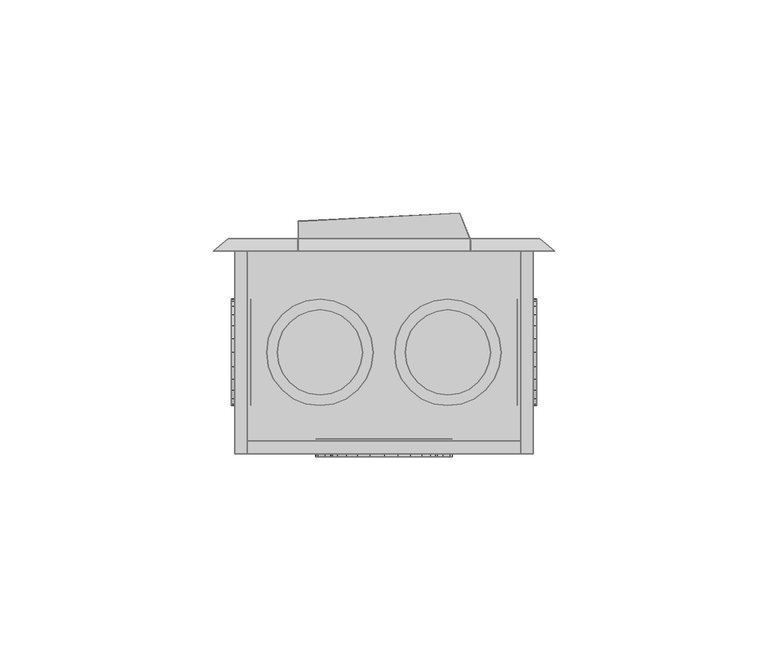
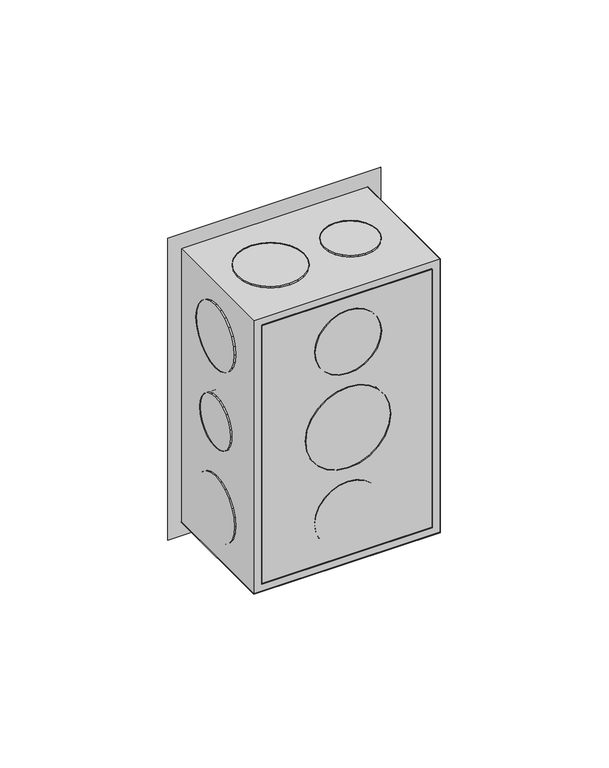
"""IFC4 building model written with IfcOpenShell, lengths in millimetres: proxy geometry,  210179 :  210179."""

from ifc_helpers import new_model, si_unit, origin, place, context, project, spatial, triangles, source, transform, mapped, element, save


def generic_models_ee511224(model_context):
    return source(origin(), model_context, "Body", "Tessellation", [
        triangles([(11176.9003326, 8695.5000504, 1254.3000378), (11179.9001495, 8695.5000504, 1148.7000154), (11176.9003326, 8695.5000504, 1145.6999805), (11179.9001495, 8695.5000504, 1251.2999302), (11246.8995483, 8695.5000504, 1254.3000378), (11243.8997314, 8695.5000504, 1251.2999302), (11246.8995483, 8695.5000504, 1145.6999805), (11243.8997314, 8695.5000504, 1148.7000154), (11179.9001495, 8648.0000427, 1251.2999302), (11179.9001495, 8648.0000427, 1148.7000154), (11246.8995483, 8648.0000427, 1254.3000378), (11246.8995483, 8648.0000427, 1145.6999805), (11243.8997314, 8648.0000427, 1251.2999302), (11176.9003326, 8648.0000427, 1145.6999805), (11243.8997314, 8648.0000427, 1148.7000154), (11176.9003326, 8648.0000427, 1254.3000378), (11179.9001495, 8650.9998596, 1251.2999302), (11243.8997314, 8650.9998596, 1148.7000154), (11179.9001495, 8650.9998596, 1148.7000154), (11243.8997314, 8650.9998596, 1251.2999302), (11198.0002075, 8651.4998291, 1191.9999887), (11203.8998474, 8651.4998291, 1186.0999855), (11200.6000488, 8651.4998291, 1188.6999722), (11196.4003052, 8651.4998291, 1195.8999687), (11207.6996155, 8651.4998291, 1184.5000105), (11195.9003357, 8651.4998291, 1200.0000092), (11211.9005219, 8651.4998291, 1183.9999683), (11196.4003052, 8651.4998291, 1204.0999769), (11216.0002716, 8651.4998291, 1184.5000105), (11198.0002075, 8651.4998291, 1208.0000296), (11219.9000336, 8651.4998291, 1186.0999855), (11200.6000488, 8651.4998291, 1211.2999735), (11223.1998322, 8651.4998291, 1188.6999722), (11203.8998474, 8651.4998291, 1213.9000328), (11225.6996796, 8651.4998291, 1191.9999887), (11207.6996155, 8651.4998291, 1215.5000078), (11227.2995819, 8651.4998291, 1195.8999687), (11211.9005219, 8651.4998291, 1215.9999773), (11227.8995453, 8651.4998291, 1200.0000092), (11216.0002716, 8651.4998291, 1215.5000078), (11227.2995819, 8651.4998291, 1204.0999769), (11219.9000336, 8651.4998291, 1213.9000328), (11225.6996796, 8651.4998291, 1208.0000296), (11223.1998322, 8651.4998291, 1211.2999735), (11216.0002716, 8647.3000854, 1184.5000105), (11211.9005219, 8647.3000854, 1183.9999683), (11207.6996155, 8647.3000854, 1184.5000105), (11203.8998474, 8647.3000854, 1186.0999855), (11200.6000488, 8647.3000854, 1188.6999722), (11198.0002075, 8647.3000854, 1191.9999887), (11196.4003052, 8647.3000854, 1195.8999687), (11195.9003357, 8647.3000854, 1200.0000092), (11196.4003052, 8647.3000854, 1204.0999769), (11198.0002075, 8647.3000854, 1208.0000296), (11200.6000488, 8647.3000854, 1211.2999735), (11203.8998474, 8647.3000854, 1213.9000328), (11207.6996155, 8647.3000854, 1215.5000078), (11211.9005219, 8647.3000854, 1215.9999773), (11216.0002716, 8647.3000854, 1215.5000078), (11219.9000336, 8647.3000854, 1213.9000328), (11223.1998322, 8647.3000854, 1211.2999735), (11225.6996796, 8647.3000854, 1208.0000296), (11227.2995819, 8647.3000854, 1204.0999769), (11227.8995453, 8647.3000854, 1200.0000092), (11227.2995819, 8647.3000854, 1195.8999687), (11225.6996796, 8647.3000854, 1191.9999887), (11223.1998322, 8647.3000854, 1188.6999722), (11219.9000336, 8647.3000854, 1186.0999855), (11201.0000244, 8651.4998291, 1227.8000565), (11205.5997437, 8651.4998291, 1223.2000465), (11202.9999023, 8651.4998291, 1225.2000698), (11199.8000977, 8651.4998291, 1230.8000187), (11208.5995605, 8651.4998291, 1221.8999805), (11199.4001221, 8651.4998291, 1233.9999687), (11211.9005219, 8651.4998291, 1221.500005), (11199.8000977, 8651.4998291, 1237.2000641), (11215.1003265, 8651.4998291, 1221.8999805), (11201.0000244, 8651.4998291, 1240.3000202), (11218.1001434, 8651.4998291, 1223.2000465), (11202.9999023, 8651.4998291, 1242.800013), (11220.6999847, 8651.4998291, 1225.2000698), (11222.6998627, 8651.4998291, 1227.8000565), (11205.5997437, 8651.4998291, 1244.8000362), (11208.5995605, 8651.4998291, 1246.0999569), (11223.8997894, 8651.4998291, 1230.8000187), (11211.9005219, 8651.4998291, 1246.4999325), (11224.3997589, 8651.4998291, 1233.9999687), (11215.1003265, 8651.4998291, 1246.0999569), (11223.8997894, 8651.4998291, 1237.2000641), (11222.6998627, 8651.4998291, 1240.3000202), (11218.1001434, 8651.4998291, 1244.8000362), (11220.6999847, 8651.4998291, 1242.800013), (11223.8997894, 8647.3000854, 1230.8000187), (11222.6998627, 8647.3000854, 1227.8000565), (11220.6999847, 8647.3000854, 1225.2000698), (11218.1001434, 8647.3000854, 1223.2000465), (11215.1003265, 8647.3000854, 1221.8999805), (11211.9005219, 8647.3000854, 1221.500005), (11208.5995605, 8647.3000854, 1221.8999805), (11205.5997437, 8647.3000854, 1223.2000465), (11202.9999023, 8647.3000854, 1225.2000698), (11201.0000244, 8647.3000854, 1227.8000565), (11199.8000977, 8647.3000854, 1230.8000187), (11199.4001221, 8647.3000854, 1233.9999687), (11199.8000977, 8647.3000854, 1237.2000641), (11201.0000244, 8647.3000854, 1240.3000202), (11202.9999023, 8647.3000854, 1242.800013), (11205.5997437, 8647.3000854, 1244.8000362), (11208.5995605, 8647.3000854, 1246.0999569), (11211.9005219, 8647.3000854, 1246.4999325), (11215.1003265, 8647.3000854, 1246.0999569), (11218.1001434, 8647.3000854, 1244.8000362), (11220.6999847, 8647.3000854, 1242.800013), (11222.6998627, 8647.3000854, 1240.3000202), (11223.8997894, 8647.3000854, 1237.2000641), (11224.3997589, 8647.3000854, 1233.9999687), (11205.5997437, 8647.3000854, 1155.1999821), (11201.0000244, 8647.3000854, 1159.6999981), (11202.9999023, 8647.3000854, 1157.2000053), (11208.5995605, 8647.3000854, 1153.8999887), (11199.8000977, 8647.3000854, 1162.8000269), (11211.9005219, 8647.3000854, 1153.5000132), (11199.4001221, 8647.3000854, 1165.9999769), (11215.1003265, 8647.3000854, 1153.8999887), (11199.8000977, 8647.3000854, 1169.1999996), (11218.1001434, 8647.3000854, 1155.1999821), (11201.0000244, 8647.3000854, 1172.2000345), (11220.6999847, 8647.3000854, 1157.2000053), (11202.9999023, 8647.3000854, 1174.8000212), (11222.6998627, 8647.3000854, 1159.6999981), (11205.5997437, 8647.3000854, 1176.7999718), (11223.8997894, 8647.3000854, 1162.8000269), (11208.5995605, 8647.3000854, 1178.0999651), (11211.9005219, 8647.3000854, 1178.5000134), (11224.3997589, 8647.3000854, 1165.9999769), (11223.8997894, 8647.3000854, 1169.1999996), (11215.1003265, 8647.3000854, 1178.0999651), (11222.6998627, 8647.3000854, 1172.2000345), (11218.1001434, 8647.3000854, 1176.7999718), (11220.6999847, 8647.3000854, 1174.8000212), (11208.5995605, 8651.4998291, 1178.0999651), (11211.9005219, 8651.4998291, 1178.5000134), (11205.5997437, 8651.4998291, 1176.7999718), (11202.9999023, 8651.4998291, 1174.8000212), (11201.0000244, 8651.4998291, 1172.2000345), (11199.8000977, 8651.4998291, 1169.1999996), (11199.4001221, 8651.4998291, 1165.9999769), (11199.8000977, 8651.4998291, 1162.8000269), (11201.0000244, 8651.4998291, 1159.6999981), (11202.9999023, 8651.4998291, 1157.2000053), (11205.5997437, 8651.4998291, 1155.1999821), (11208.5995605, 8651.4998291, 1153.8999887), (11211.9005219, 8651.4998291, 1153.5000132), (11215.1003265, 8651.4998291, 1153.8999887), (11218.1001434, 8651.4998291, 1155.1999821), (11220.6999847, 8651.4998291, 1157.2000053), (11222.6998627, 8651.4998291, 1159.6999981), (11223.8997894, 8651.4998291, 1162.8000269), (11224.3997589, 8651.4998291, 1165.9999769), (11223.8997894, 8651.4998291, 1169.1999996), (11222.6998627, 8651.4998291, 1172.2000345), (11220.6999847, 8651.4998291, 1174.8000212), (11218.1001434, 8651.4998291, 1176.7999718), (11215.1003265, 8651.4998291, 1178.0999651), (11180.7001007, 8666.800058, 1191.3000315), (11180.7001007, 8663.1002838, 1195.0000237), (11180.7001007, 8664.7001862, 1192.9000065), (11180.7001007, 8662.0997635, 1197.4000225), (11180.7001007, 8669.1999115, 1190.3000198), (11180.7001007, 8661.7997818, 1200.0000092), (11180.7001007, 8671.7997528, 1189.9999655), (11180.7001007, 8674.3001816, 1190.3000198), (11180.7001007, 8662.0997635, 1202.5999958), (11180.7001007, 8663.1002838, 1204.9999947), (11180.7001007, 8676.800029, 1191.3000315), (11180.7001007, 8664.7001862, 1207.1000118), (11180.7001007, 8678.7999069, 1192.9000065), (11180.7001007, 8680.3998093, 1195.0000237), (11180.7001007, 8666.800058, 1208.6999868), (11180.7001007, 8681.3997482, 1197.4000225), (11180.7001007, 8669.1999115, 1209.6999985), (11180.7001007, 8681.7997238, 1200.0000092), (11180.7001007, 8671.7997528, 1209.9999802), (11180.7001007, 8681.3997482, 1202.5999958), (11180.7001007, 8674.3001816, 1209.6999985), (11180.7001007, 8676.800029, 1208.6999868), (11180.7001007, 8680.3998093, 1204.9999947), (11180.7001007, 8678.7999069, 1207.1000118), (11176.1003815, 8671.7997528, 1189.9999655), (11176.1003815, 8669.1999115, 1190.3000198), (11176.1003815, 8674.3001816, 1190.3000198), (11176.1003815, 8676.800029, 1191.3000315), (11176.1003815, 8678.7999069, 1192.9000065), (11176.1003815, 8680.3998093, 1195.0000237), (11176.1003815, 8681.3997482, 1197.4000225), (11176.1003815, 8681.7997238, 1200.0000092), (11176.1003815, 8681.3997482, 1202.5999958), (11176.1003815, 8680.3998093, 1204.9999947), (11176.1003815, 8678.7999069, 1207.1000118), (11176.1003815, 8676.800029, 1208.6999868), (11176.1003815, 8674.3001816, 1209.6999985), (11176.1003815, 8671.7997528, 1209.9999802), (11176.1003815, 8669.1999115, 1209.6999985), (11176.1003815, 8666.800058, 1208.6999868), (11176.1003815, 8664.7001862, 1207.1000118), (11176.1003815, 8663.1002838, 1204.9999947), (11176.1003815, 8662.0997635, 1202.5999958), (11176.1003815, 8661.7997818, 1200.0000092), (11176.1003815, 8662.0997635, 1197.4000225), (11176.1003815, 8663.1002838, 1195.0000237), (11176.1003815, 8664.7001862, 1192.9000065), (11176.1003815, 8666.800058, 1191.3000315), (11180.7001007, 8665.5001373, 1223.2000465), (11180.7001007, 8660.8998367, 1227.8000565), (11180.7001007, 8662.8997147, 1225.2000698), (11180.7001007, 8668.4999542, 1221.8999805), (11180.7001007, 8659.69991, 1230.8000187), (11180.7001007, 8659.2999344, 1233.9999687), (11180.7001007, 8671.7997528, 1221.500005), (11180.7001007, 8675.0001389, 1221.8999805), (11180.7001007, 8659.69991, 1237.2000641), (11180.7001007, 8660.8998367, 1240.3000202), (11180.7001007, 8677.9999557, 1223.2000465), (11180.7001007, 8680.5997971, 1225.2000698), (11180.7001007, 8662.8997147, 1242.800013), (11180.7001007, 8682.6002563, 1227.8000565), (11180.7001007, 8665.5001373, 1244.8000362), (11180.7001007, 8683.8001831, 1230.8000187), (11180.7001007, 8668.4999542, 1246.0999569), (11180.7001007, 8684.3001526, 1233.9999687), (11180.7001007, 8671.7997528, 1246.4999325), (11180.7001007, 8683.8001831, 1237.2000641), (11180.7001007, 8675.0001389, 1246.0999569), (11180.7001007, 8682.6002563, 1240.3000202), (11180.7001007, 8677.9999557, 1244.8000362), (11180.7001007, 8680.5997971, 1242.800013), (11176.1003815, 8671.7997528, 1221.500005), (11176.1003815, 8668.4999542, 1221.8999805), (11176.1003815, 8675.0001389, 1221.8999805), (11176.1003815, 8677.9999557, 1223.2000465), (11176.1003815, 8680.5997971, 1225.2000698), (11176.1003815, 8682.6002563, 1227.8000565), (11176.1003815, 8683.8001831, 1230.8000187), (11176.1003815, 8684.3001526, 1233.9999687), (11176.1003815, 8683.8001831, 1237.2000641), (11176.1003815, 8682.6002563, 1240.3000202), (11176.1003815, 8680.5997971, 1242.800013), (11176.1003815, 8677.9999557, 1244.8000362), (11176.1003815, 8675.0001389, 1246.0999569), (11176.1003815, 8671.7997528, 1246.4999325), (11176.1003815, 8668.4999542, 1246.0999569), (11176.1003815, 8665.5001373, 1244.8000362), (11176.1003815, 8662.8997147, 1242.800013), (11176.1003815, 8660.8998367, 1240.3000202), (11176.1003815, 8659.69991, 1237.2000641), (11176.1003815, 8659.2999344, 1233.9999687), (11176.1003815, 8659.69991, 1230.8000187), (11176.1003815, 8660.8998367, 1227.8000565), (11176.1003815, 8662.8997147, 1225.2000698), (11176.1003815, 8665.5001373, 1223.2000465), (11176.1003815, 8660.8998367, 1159.6999981), (11176.1003815, 8665.5001373, 1155.1999821), (11176.1003815, 8662.8997147, 1157.2000053), (11176.1003815, 8659.69991, 1162.8000269), (11176.1003815, 8668.4999542, 1153.8999887), (11176.1003815, 8659.2999344, 1165.9999769), (11176.1003815, 8671.7997528, 1153.5000132), (11176.1003815, 8659.69991, 1169.1999996), (11176.1003815, 8675.0001389, 1153.8999887), (11176.1003815, 8660.8998367, 1172.2000345), (11176.1003815, 8677.9999557, 1155.1999821), (11176.1003815, 8662.8997147, 1174.8000212), (11176.1003815, 8680.5997971, 1157.2000053), (11176.1003815, 8665.5001373, 1176.7999718), (11176.1003815, 8682.6002563, 1159.6999981), (11176.1003815, 8668.4999542, 1178.0999651), (11176.1003815, 8683.8001831, 1162.8000269), (11176.1003815, 8671.7997528, 1178.5000134), (11176.1003815, 8684.3001526, 1165.9999769), (11176.1003815, 8675.0001389, 1178.0999651), (11176.1003815, 8683.8001831, 1169.1999996), (11176.1003815, 8677.9999557, 1176.7999718), (11176.1003815, 8682.6002563, 1172.2000345), (11176.1003815, 8680.5997971, 1174.8000212), (11180.7001007, 8668.4999542, 1178.0999651), (11180.7001007, 8671.7997528, 1178.5000134), (11180.7001007, 8675.0001389, 1178.0999651), (11180.7001007, 8677.9999557, 1176.7999718), (11180.7001007, 8680.5997971, 1174.8000212), (11180.7001007, 8682.6002563, 1172.2000345), (11180.7001007, 8683.8001831, 1169.1999996), (11180.7001007, 8684.3001526, 1165.9999769), (11180.7001007, 8683.8001831, 1162.8000269), (11180.7001007, 8682.6002563, 1159.6999981), (11180.7001007, 8680.5997971, 1157.2000053), (11180.7001007, 8677.9999557, 1155.1999821), (11180.7001007, 8675.0001389, 1153.8999887), (11180.7001007, 8671.7997528, 1153.5000132), (11180.7001007, 8668.4999542, 1153.8999887), (11180.7001007, 8665.5001373, 1155.1999821), (11180.7001007, 8662.8997147, 1157.2000053), (11180.7001007, 8660.8998367, 1159.6999981), (11180.7001007, 8659.69991, 1162.8000269), (11180.7001007, 8659.2999344, 1165.9999769), (11180.7001007, 8659.69991, 1169.1999996), (11180.7001007, 8660.8998367, 1172.2000345), (11180.7001007, 8662.8997147, 1174.8000212), (11180.7001007, 8665.5001373, 1176.7999718), (11243.0997803, 8663.1002838, 1195.0000237), (11243.0997803, 8666.800058, 1191.3000315), (11243.0997803, 8664.7001862, 1192.9000065), (11243.0997803, 8662.0997635, 1197.4000225), (11243.0997803, 8669.1999115, 1190.3000198), (11243.0997803, 8661.7997818, 1200.0000092), (11243.0997803, 8671.7997528, 1189.9999655), (11243.0997803, 8662.0997635, 1202.5999958), (11243.0997803, 8674.3001816, 1190.3000198), (11243.0997803, 8663.1002838, 1204.9999947), (11243.0997803, 8676.800029, 1191.3000315), (11243.0997803, 8664.7001862, 1207.1000118), (11243.0997803, 8678.7999069, 1192.9000065), (11243.0997803, 8666.800058, 1208.6999868), (11243.0997803, 8680.3998093, 1195.0000237), (11243.0997803, 8669.1999115, 1209.6999985), (11243.0997803, 8681.3997482, 1197.4000225), (11243.0997803, 8681.7997238, 1200.0000092), (11243.0997803, 8671.7997528, 1209.9999802), (11243.0997803, 8674.3001816, 1209.6999985), (11243.0997803, 8681.3997482, 1202.5999958), (11243.0997803, 8676.800029, 1208.6999868), (11243.0997803, 8680.3998093, 1204.9999947), (11243.0997803, 8678.7999069, 1207.1000118), (11247.6994995, 8669.1999115, 1209.6999985), (11247.6994995, 8671.7997528, 1209.9999802), (11247.6994995, 8674.3001816, 1209.6999985), (11247.6994995, 8676.800029, 1208.6999868), (11247.6994995, 8678.7999069, 1207.1000118), (11247.6994995, 8680.3998093, 1204.9999947), (11247.6994995, 8681.3997482, 1202.5999958), (11247.6994995, 8681.7997238, 1200.0000092), (11247.6994995, 8681.3997482, 1197.4000225), (11247.6994995, 8680.3998093, 1195.0000237), (11247.6994995, 8678.7999069, 1192.9000065), (11247.6994995, 8676.800029, 1191.3000315), (11247.6994995, 8674.3001816, 1190.3000198), (11247.6994995, 8671.7997528, 1189.9999655), (11247.6994995, 8669.1999115, 1190.3000198), (11247.6994995, 8666.800058, 1191.3000315), (11247.6994995, 8664.7001862, 1192.9000065), (11247.6994995, 8663.1002838, 1195.0000237), (11247.6994995, 8662.0997635, 1197.4000225), (11247.6994995, 8661.7997818, 1200.0000092), (11247.6994995, 8662.0997635, 1202.5999958), (11247.6994995, 8663.1002838, 1204.9999947), (11247.6994995, 8664.7001862, 1207.1000118), (11247.6994995, 8666.800058, 1208.6999868), (11243.0997803, 8660.8998367, 1159.6999981), (11243.0997803, 8665.5001373, 1155.1999821), (11243.0997803, 8662.8997147, 1157.2000053), (11243.0997803, 8659.69991, 1162.8000269), (11243.0997803, 8668.4999542, 1153.8999887), (11243.0997803, 8659.2999344, 1165.9999769), (11243.0997803, 8671.7997528, 1153.5000132), (11243.0997803, 8659.69991, 1169.1999996), (11243.0997803, 8675.0001389, 1153.8999887), (11243.0997803, 8660.8998367, 1172.2000345), (11243.0997803, 8677.9999557, 1155.1999821), (11243.0997803, 8662.8997147, 1174.8000212), (11243.0997803, 8680.5997971, 1157.2000053), (11243.0997803, 8665.5001373, 1176.7999718), (11243.0997803, 8682.6002563, 1159.6999981), (11243.0997803, 8668.4999542, 1178.0999651), (11243.0997803, 8683.8001831, 1162.8000269), (11243.0997803, 8671.7997528, 1178.5000134), (11243.0997803, 8684.3001526, 1165.9999769), (11243.0997803, 8675.0001389, 1178.0999651), (11243.0997803, 8683.8001831, 1169.1999996), (11243.0997803, 8677.9999557, 1176.7999718), (11243.0997803, 8682.6002563, 1172.2000345), (11243.0997803, 8680.5997971, 1174.8000212), (11247.6994995, 8668.4999542, 1178.0999651), (11247.6994995, 8671.7997528, 1178.5000134), (11247.6994995, 8675.0001389, 1178.0999651), (11247.6994995, 8677.9999557, 1176.7999718), (11247.6994995, 8680.5997971, 1174.8000212), (11247.6994995, 8682.6002563, 1172.2000345), (11247.6994995, 8683.8001831, 1169.1999996), (11247.6994995, 8684.3001526, 1165.9999769), (11247.6994995, 8683.8001831, 1162.8000269), (11247.6994995, 8682.6002563, 1159.6999981), (11247.6994995, 8680.5997971, 1157.2000053), (11247.6994995, 8677.9999557, 1155.1999821), (11247.6994995, 8675.0001389, 1153.8999887), (11247.6994995, 8671.7997528, 1153.5000132), (11247.6994995, 8668.4999542, 1153.8999887), (11247.6994995, 8665.5001373, 1155.1999821), (11247.6994995, 8662.8997147, 1157.2000053), (11247.6994995, 8660.8998367, 1159.6999981), (11247.6994995, 8659.69991, 1162.8000269), (11247.6994995, 8659.2999344, 1165.9999769), (11247.6994995, 8659.69991, 1169.1999996), (11247.6994995, 8660.8998367, 1172.2000345), (11247.6994995, 8662.8997147, 1174.8000212), (11247.6994995, 8665.5001373, 1176.7999718), (11247.6994995, 8665.5001373, 1223.2000465), (11247.6994995, 8660.8998367, 1227.8000565), (11247.6994995, 8662.8997147, 1225.2000698), (11247.6994995, 8668.4999542, 1221.8999805), (11247.6994995, 8659.69991, 1230.8000187), (11247.6994995, 8659.2999344, 1233.9999687), (11247.6994995, 8671.7997528, 1221.500005), (11247.6994995, 8675.0001389, 1221.8999805), (11247.6994995, 8659.69991, 1237.2000641), (11247.6994995, 8660.8998367, 1240.3000202), (11247.6994995, 8677.9999557, 1223.2000465), (11247.6994995, 8680.5997971, 1225.2000698), (11247.6994995, 8662.8997147, 1242.800013), (11247.6994995, 8682.6002563, 1227.8000565), (11247.6994995, 8665.5001373, 1244.8000362), (11247.6994995, 8683.8001831, 1230.8000187), (11247.6994995, 8668.4999542, 1246.0999569), (11247.6994995, 8684.3001526, 1233.9999687), (11247.6994995, 8671.7997528, 1246.4999325), (11247.6994995, 8683.8001831, 1237.2000641), (11247.6994995, 8675.0001389, 1246.0999569), (11247.6994995, 8682.6002563, 1240.3000202), (11247.6994995, 8677.9999557, 1244.8000362), (11247.6994995, 8680.5997971, 1242.800013), (11243.0997803, 8671.7997528, 1221.500005), (11243.0997803, 8668.4999542, 1221.8999805), (11243.0997803, 8675.0001389, 1221.8999805), (11243.0997803, 8677.9999557, 1223.2000465), (11243.0997803, 8680.5997971, 1225.2000698), (11243.0997803, 8682.6002563, 1227.8000565), (11243.0997803, 8683.8001831, 1230.8000187), (11243.0997803, 8684.3001526, 1233.9999687), (11243.0997803, 8683.8001831, 1237.2000641), (11243.0997803, 8682.6002563, 1240.3000202), (11243.0997803, 8680.5997971, 1242.800013), (11243.0997803, 8677.9999557, 1244.8000362), (11243.0997803, 8675.0001389, 1246.0999569), (11243.0997803, 8671.7997528, 1246.4999325), (11243.0997803, 8668.4999542, 1246.0999569), (11243.0997803, 8665.5001373, 1244.8000362), (11243.0997803, 8662.8997147, 1242.800013), (11243.0997803, 8660.8998367, 1240.3000202), (11243.0997803, 8659.69991, 1237.2000641), (11243.0997803, 8659.2999344, 1233.9999687), (11243.0997803, 8659.69991, 1230.8000187), (11243.0997803, 8660.8998367, 1227.8000565), (11243.0997803, 8662.8997147, 1225.2000698), (11243.0997803, 8665.5001373, 1223.2000465), (11185.9997772, 8665.5001373, 1250.9999485), (11190.5994965, 8660.8998367, 1250.9999485), (11187.9996552, 8662.8997147, 1250.9999485), (11184.7998505, 8668.4999542, 1250.9999485), (11193.6004761, 8659.69991, 1250.9999485), (11196.9002747, 8659.2999344, 1250.9999485), (11184.3998749, 8671.7997528, 1250.9999485), (11184.7998505, 8675.0001389, 1250.9999485), (11200.1000793, 8659.69991, 1250.9999485), (11203.0998962, 8660.8998367, 1250.9999485), (11185.9997772, 8677.9999557, 1250.9999485), (11187.9996552, 8680.5997971, 1250.9999485), (11205.6997375, 8662.8997147, 1250.9999485), (11207.6996155, 8665.5001373, 1250.9999485), (11190.5994965, 8682.6002563, 1250.9999485), (11193.6004761, 8683.8001831, 1250.9999485), (11208.8995422, 8668.4999542, 1250.9999485), (11196.9002747, 8684.3001526, 1250.9999485), (11209.3995117, 8671.7997528, 1250.9999485), (11200.1000793, 8683.8001831, 1250.9999485), (11208.8995422, 8675.0001389, 1250.9999485), (11207.6996155, 8677.9999557, 1250.9999485), (11203.0998962, 8682.6002563, 1250.9999485), (11205.6997375, 8680.5997971, 1250.9999485), (11196.9002747, 8659.2999344, 1255.1999828), (11200.1000793, 8659.69991, 1255.1999828), (11193.6004761, 8659.69991, 1255.1999828), (11190.5994965, 8660.8998367, 1255.1999828), (11187.9996552, 8662.8997147, 1255.1999828), (11185.9997772, 8665.5001373, 1255.1999828), (11184.7998505, 8668.4999542, 1255.1999828), (11184.3998749, 8671.7997528, 1255.1999828), (11184.7998505, 8675.0001389, 1255.1999828), (11185.9997772, 8677.9999557, 1255.1999828), (11187.9996552, 8680.5997971, 1255.1999828), (11190.5994965, 8682.6002563, 1255.1999828), (11193.6004761, 8683.8001831, 1255.1999828), (11196.9002747, 8684.3001526, 1255.1999828), (11200.1000793, 8683.8001831, 1255.1999828), (11203.0998962, 8682.6002563, 1255.1999828), (11205.6997375, 8680.5997971, 1255.1999828), (11207.6996155, 8677.9999557, 1255.1999828), (11208.8995422, 8675.0001389, 1255.1999828), (11209.3995117, 8671.7997528, 1255.1999828), (11208.8995422, 8668.4999542, 1255.1999828), (11207.6996155, 8665.5001373, 1255.1999828), (11205.6997375, 8662.8997147, 1255.1999828), (11203.0998962, 8660.8998367, 1255.1999828), (11218.2001373, 8666.800058, 1250.9999485), (11221.8999115, 8663.1002838, 1250.9999485), (11219.8000397, 8664.7001862, 1250.9999485), (11224.299765, 8662.0997635, 1250.9999485), (11217.2001984, 8669.1999115, 1250.9999485), (11226.8996063, 8661.7997818, 1250.9999485), (11216.9002167, 8671.7997528, 1250.9999485), (11217.2001984, 8674.3001816, 1250.9999485), (11229.4994476, 8662.0997635, 1250.9999485), (11231.9004639, 8663.1002838, 1250.9999485), (11218.2001373, 8676.800029, 1250.9999485), (11233.9003418, 8664.7001862, 1250.9999485), (11219.8000397, 8678.7999069, 1250.9999485), (11221.8999115, 8680.3998093, 1250.9999485), (11235.5002441, 8666.800058, 1250.9999485), (11236.5001831, 8669.1999115, 1250.9999485), (11224.299765, 8681.3997482, 1250.9999485), (11226.8996063, 8681.7997238, 1250.9999485), (11236.9001587, 8671.7997528, 1250.9999485), (11229.4994476, 8681.3997482, 1250.9999485), (11236.5001831, 8674.3001816, 1250.9999485), (11231.9004639, 8680.3998093, 1250.9999485), (11235.5002441, 8676.800029, 1250.9999485), (11233.9003418, 8678.7999069, 1250.9999485), (11229.4994476, 8662.0997635, 1255.1999828), (11231.9004639, 8663.1002838, 1255.1999828), (11226.8996063, 8661.7997818, 1255.1999828), (11224.299765, 8662.0997635, 1255.1999828), (11221.8999115, 8663.1002838, 1255.1999828), (11219.8000397, 8664.7001862, 1255.1999828), (11218.2001373, 8666.800058, 1255.1999828), (11217.2001984, 8669.1999115, 1255.1999828), (11216.9002167, 8671.7997528, 1255.1999828), (11217.2001984, 8674.3001816, 1255.1999828), (11218.2001373, 8676.800029, 1255.1999828), (11219.8000397, 8678.7999069, 1255.1999828), (11221.8999115, 8680.3998093, 1255.1999828), (11224.299765, 8681.3997482, 1255.1999828), (11226.8996063, 8681.7997238, 1255.1999828), (11229.4994476, 8681.3997482, 1255.1999828), (11231.9004639, 8680.3998093, 1255.1999828), (11233.9003418, 8678.7999069, 1255.1999828), (11235.5002441, 8676.800029, 1255.1999828), (11236.5001831, 8674.3001816, 1255.1999828), (11236.9001587, 8671.7997528, 1255.1999828), (11236.5001831, 8669.1999115, 1255.1999828), (11235.5002441, 8666.800058, 1255.1999828), (11233.9003418, 8664.7001862, 1255.1999828), (11188.1996429, 8666.800058, 1144.8000355), (11191.9005798, 8663.1002838, 1144.8000355), (11189.7995453, 8664.7001862, 1144.8000355), (11194.3004333, 8662.0997635, 1144.8000355), (11187.199704, 8669.1999115, 1144.8000355), (11196.9002747, 8661.7997818, 1144.8000355), (11186.8997223, 8671.7997528, 1144.8000355), (11187.199704, 8674.3001816, 1144.8000355), (11199.500116, 8662.0997635, 1144.8000355), (11201.8999695, 8663.1002838, 1144.8000355), (11188.1996429, 8676.800029, 1144.8000355), (11203.8998474, 8664.7001862, 1144.8000355), (11189.7995453, 8678.7999069, 1144.8000355), (11191.9005798, 8680.3998093, 1144.8000355), (11205.4997498, 8666.800058, 1144.8000355), (11206.4996887, 8669.1999115, 1144.8000355), (11194.3004333, 8681.3997482, 1144.8000355), (11196.9002747, 8681.7997238, 1144.8000355), (11206.8996643, 8671.7997528, 1144.8000355), (11199.500116, 8681.3997482, 1144.8000355), (11206.4996887, 8674.3001816, 1144.8000355), (11201.8999695, 8680.3998093, 1144.8000355), (11205.4997498, 8676.800029, 1144.8000355), (11203.8998474, 8678.7999069, 1144.8000355), (11194.3004333, 8662.0997635, 1149.099991), (11196.9002747, 8661.7997818, 1149.099991), (11191.9005798, 8663.1002838, 1149.099991), (11189.7995453, 8664.7001862, 1149.099991), (11188.1996429, 8666.800058, 1149.099991), (11187.199704, 8669.1999115, 1149.099991), (11186.8997223, 8671.7997528, 1149.099991), (11187.199704, 8674.3001816, 1149.099991), (11188.1996429, 8676.800029, 1149.099991), (11189.7995453, 8678.7999069, 1149.099991), (11191.9005798, 8680.3998093, 1149.099991), (11194.3004333, 8681.3997482, 1149.099991), (11196.9002747, 8681.7997238, 1149.099991), (11199.500116, 8681.3997482, 1149.099991), (11201.8999695, 8680.3998093, 1149.099991), (11203.8998474, 8678.7999069, 1149.099991), (11205.4997498, 8676.800029, 1149.099991), (11206.4996887, 8674.3001816, 1149.099991), (11206.8996643, 8671.7997528, 1149.099991), (11206.4996887, 8669.1999115, 1149.099991), (11205.4997498, 8666.800058, 1149.099991), (11203.8998474, 8664.7001862, 1149.099991), (11201.8999695, 8663.1002838, 1149.099991), (11199.500116, 8662.0997635, 1149.099991), (11216.0002716, 8665.5001373, 1144.8000355), (11220.5999908, 8660.8998367, 1144.8000355), (11218.0001495, 8662.8997147, 1144.8000355), (11214.8003448, 8668.4999542, 1144.8000355), (11223.5998077, 8659.69991, 1144.8000355), (11226.8996063, 8659.2999344, 1144.8000355), (11214.4003693, 8671.7997528, 1144.8000355), (11214.8003448, 8675.0001389, 1144.8000355), (11230.1005737, 8659.69991, 1144.8000355), (11233.1003906, 8660.8998367, 1144.8000355), (11216.0002716, 8677.9999557, 1144.8000355), (11218.0001495, 8680.5997971, 1144.8000355), (11235.7002319, 8662.8997147, 1144.8000355), (11237.7001099, 8665.5001373, 1144.8000355), (11220.5999908, 8682.6002563, 1144.8000355), (11223.5998077, 8683.8001831, 1144.8000355), (11238.9000366, 8668.4999542, 1144.8000355), (11226.8996063, 8684.3001526, 1144.8000355), (11239.4000061, 8671.7997528, 1144.8000355), (11230.1005737, 8683.8001831, 1144.8000355), (11238.9000366, 8675.0001389, 1144.8000355), (11237.7001099, 8677.9999557, 1144.8000355), (11233.1003906, 8682.6002563, 1144.8000355), (11235.7002319, 8680.5997971, 1144.8000355), (11230.1005737, 8659.69991, 1149.099991), (11233.1003906, 8660.8998367, 1149.099991), (11226.8996063, 8659.2999344, 1149.099991), (11223.5998077, 8659.69991, 1149.099991), (11220.5999908, 8660.8998367, 1149.099991), (11218.0001495, 8662.8997147, 1149.099991), (11216.0002716, 8665.5001373, 1149.099991), (11214.8003448, 8668.4999542, 1149.099991), (11214.4003693, 8671.7997528, 1149.099991), (11214.8003448, 8675.0001389, 1149.099991), (11216.0002716, 8677.9999557, 1149.099991), (11218.0001495, 8680.5997971, 1149.099991), (11220.5999908, 8682.6002563, 1149.099991), (11223.5998077, 8683.8001831, 1149.099991), (11226.8996063, 8684.3001526, 1149.099991), (11230.1005737, 8683.8001831, 1149.099991), (11233.1003906, 8682.6002563, 1149.099991), (11235.7002319, 8680.5997971, 1149.099991), (11237.7001099, 8677.9999557, 1149.099991), (11238.9000366, 8675.0001389, 1149.099991), (11239.4000061, 8671.7997528, 1149.099991), (11238.9000366, 8668.4999542, 1149.099991), (11237.7001099, 8665.5001373, 1149.099991), (11235.7002319, 8662.8997147, 1149.099991), (11251.9004059, 8695.5000504, 1139.9999651), (11191.6994293, 8695.5000504, 1188.2999966), (11171.8994751, 8695.5000504, 1139.9999651), (11232.1004517, 8695.5000504, 1188.2999966), (11251.9004059, 8695.5000504, 1259.9999805), (11232.1004517, 8695.5000504, 1211.7000217), (11171.8994751, 8695.5000504, 1259.9999805), (11191.6994293, 8695.5000504, 1211.7000217), (11232.1004517, 8698.4998672, 1188.2999966), (11232.1004517, 8698.4998672, 1211.7000217), (11191.6994293, 8698.4998672, 1188.2999966), (11191.6994293, 8698.4998672, 1211.7000217), (11175.4004242, 8698.4998672, 1143.4999695), (11175.4004242, 8698.4998672, 1256.5000488), (11248.3994568, 8698.4998672, 1143.4999695), (11248.3994568, 8698.4998672, 1256.5000488), (11191.7994232, 8702.5002045, 1188.1000088), (11232.2004456, 8695.5000504, 1188.1000088), (11191.7994232, 8695.5000504, 1188.1000088), (11229.5994415, 8704.4000885, 1188.1000088), (11232.2004456, 8697.9998978, 1188.1000088), (11191.7994232, 8695.5000504, 1211.500034), (11232.2004456, 8695.5000504, 1211.500034), (11191.7994232, 8702.5002045, 1211.500034), (11229.5994415, 8704.4000885, 1211.500034), (11232.2004456, 8697.9998978, 1211.500034)], [[1, 2, 3], [2, 1, 4], [5, 4, 1], [4, 5, 6], [3, 2, 7], [7, 2, 8], [7, 8, 6], [7, 6, 5], [2, 9, 10], [9, 2, 4], [7, 11, 12], [11, 7, 5], [4, 13, 9], [13, 4, 6], [3, 12, 14], [12, 3, 7], [13, 8, 15], [8, 13, 6], [16, 3, 14], [3, 16, 1], [15, 2, 10], [2, 15, 8], [11, 1, 16], [1, 11, 5], [12, 10, 14], [10, 12, 15], [11, 15, 12], [15, 11, 13], [14, 10, 16], [16, 10, 9], [16, 9, 13], [16, 13, 11], [17, 18, 19], [18, 17, 20], [18, 13, 15], [13, 18, 20], [19, 15, 10], [15, 19, 18], [9, 19, 10], [19, 9, 17], [13, 17, 9], [17, 13, 20], [15, 9, 10], [9, 15, 13], [21, 22, 23], [22, 21, 24], [25, 22, 24], [25, 24, 26], [27, 25, 26], [27, 26, 28], [29, 27, 28], [29, 28, 30], [31, 29, 30], [31, 30, 32], [31, 32, 33], [33, 32, 34], [33, 34, 35], [35, 34, 36], [35, 36, 37], [37, 36, 38], [37, 38, 39], [39, 38, 40], [39, 40, 41], [41, 40, 42], [41, 42, 43], [43, 42, 44], [27, 45, 46], [45, 27, 29], [25, 46, 47], [46, 25, 27], [22, 47, 48], [47, 22, 25], [23, 48, 49], [48, 23, 22], [50, 23, 49], [23, 50, 21], [51, 21, 50], [21, 51, 24], [52, 24, 51], [24, 52, 26], [53, 26, 52], [26, 53, 28], [54, 28, 53], [28, 54, 30], [55, 30, 54], [30, 55, 32], [56, 32, 55], [32, 56, 34], [57, 34, 56], [34, 57, 36], [58, 36, 57], [36, 58, 38], [59, 38, 58], [38, 59, 40], [60, 40, 59], [40, 60, 42], [61, 42, 60], [42, 61, 44], [43, 61, 62], [61, 43, 44], [41, 62, 63], [62, 41, 43], [39, 63, 64], [63, 39, 41], [37, 64, 65], [64, 37, 39], [35, 65, 66], [65, 35, 37], [33, 66, 67], [66, 33, 35], [31, 67, 68], [67, 31, 33], [29, 68, 45], [68, 29, 31], [48, 50, 49], [50, 48, 47], [51, 50, 47], [51, 47, 46], [52, 51, 46], [52, 46, 45], [53, 52, 45], [53, 45, 68], [54, 53, 68], [54, 68, 67], [54, 67, 55], [55, 67, 66], [55, 66, 56], [56, 66, 65], [56, 65, 57], [57, 65, 64], [57, 64, 58], [58, 64, 63], [58, 63, 59], [59, 63, 62], [59, 62, 60], [60, 62, 61], [69, 70, 71], [70, 69, 72], [73, 70, 72], [73, 72, 74], [75, 73, 74], [75, 74, 76], [77, 75, 76], [77, 76, 78], [79, 77, 78], [79, 78, 80], [81, 79, 80], [81, 80, 82], [82, 80, 83], [82, 83, 84], [82, 84, 85], [85, 84, 86], [85, 86, 87], [87, 86, 88], [87, 88, 89], [89, 88, 90], [90, 88, 91], [90, 91, 92], [82, 93, 94], [93, 82, 85], [81, 94, 95], [94, 81, 82], [79, 95, 96], [95, 79, 81], [77, 96, 97], [96, 77, 79], [75, 97, 98], [97, 75, 77], [73, 98, 99], [98, 73, 75], [70, 99, 100], [99, 70, 73], [71, 100, 101], [100, 71, 70], [102, 71, 101], [71, 102, 69], [103, 69, 102], [69, 103, 72], [104, 72, 103], [72, 104, 74], [105, 74, 104], [74, 105, 76], [106, 76, 105], [76, 106, 78], [107, 78, 106], [78, 107, 80], [108, 80, 107], [80, 108, 83], [109, 83, 108], [83, 109, 84], [110, 84, 109], [84, 110, 86], [111, 86, 110], [86, 111, 88], [112, 88, 111], [88, 112, 91], [113, 91, 112], [91, 113, 92], [90, 113, 114], [113, 90, 92], [89, 114, 115], [114, 89, 90], [87, 115, 116], [115, 87, 89], [85, 116, 93], [116, 85, 87], [100, 102, 101], [102, 100, 99], [103, 102, 99], [103, 99, 98], [104, 103, 98], [104, 98, 97], [105, 104, 97], [106, 105, 97], [106, 97, 96], [106, 96, 95], [106, 95, 107], [107, 95, 94], [107, 94, 108], [108, 94, 93], [108, 93, 109], [109, 93, 116], [109, 116, 110], [110, 116, 115], [110, 115, 111], [111, 115, 114], [111, 114, 112], [112, 114, 113], [117, 118, 119], [118, 117, 120], [121, 118, 120], [121, 120, 122], [123, 121, 122], [123, 122, 124], [125, 123, 124], [125, 124, 126], [127, 125, 126], [127, 126, 128], [127, 128, 129], [129, 128, 130], [129, 130, 131], [131, 130, 132], [131, 132, 133], [133, 132, 134], [134, 132, 135], [134, 135, 136], [134, 136, 137], [137, 136, 138], [137, 138, 139], [139, 138, 140], [134, 141, 133], [141, 134, 142], [133, 143, 131], [143, 133, 141], [131, 144, 129], [144, 131, 143], [129, 145, 127], [145, 129, 144], [127, 146, 125], [146, 127, 145], [125, 147, 123], [147, 125, 146], [123, 148, 121], [148, 123, 147], [121, 149, 118], [149, 121, 148], [118, 150, 119], [150, 118, 149], [150, 117, 119], [117, 150, 151], [151, 120, 117], [120, 151, 152], [152, 122, 120], [122, 152, 153], [153, 124, 122], [124, 153, 154], [154, 126, 124], [126, 154, 155], [155, 128, 126], [128, 155, 156], [156, 130, 128], [130, 156, 157], [157, 132, 130], [132, 157, 158], [158, 135, 132], [135, 158, 159], [159, 136, 135], [136, 159, 160], [160, 138, 136], [138, 160, 161], [161, 140, 138], [140, 161, 162], [140, 163, 139], [163, 140, 162], [139, 164, 137], [164, 139, 163], [137, 142, 134], [142, 137, 164], [149, 151, 150], [151, 149, 148], [152, 151, 148], [153, 152, 148], [153, 148, 147], [153, 147, 146], [154, 153, 146], [154, 146, 145], [155, 154, 145], [155, 145, 144], [156, 155, 144], [156, 144, 157], [157, 144, 143], [157, 143, 141], [157, 141, 158], [158, 141, 142], [158, 142, 159], [159, 142, 164], [159, 164, 160], [160, 164, 163], [160, 163, 161], [161, 163, 162], [165, 166, 167], [168, 166, 165], [168, 165, 169], [170, 168, 169], [170, 169, 171], [170, 171, 172], [173, 170, 172], [174, 173, 172], [174, 172, 175], [176, 174, 175], [176, 175, 177], [176, 177, 178], [176, 178, 179], [179, 178, 180], [179, 180, 181], [181, 180, 182], [181, 182, 183], [183, 182, 184], [183, 184, 185], [185, 184, 186], [186, 184, 187], [186, 187, 188], [189, 169, 190], [169, 189, 171], [191, 171, 189], [171, 191, 172], [192, 172, 191], [172, 192, 175], [193, 175, 192], [175, 193, 177], [194, 177, 193], [177, 194, 178], [195, 178, 194], [178, 195, 180], [196, 180, 195], [180, 196, 182], [197, 182, 196], [182, 197, 184], [198, 184, 197], [184, 198, 187], [199, 187, 198], [187, 199, 188], [186, 199, 200], [199, 186, 188], [185, 200, 201], [200, 185, 186], [183, 201, 202], [201, 183, 185], [181, 202, 203], [202, 181, 183], [179, 203, 204], [203, 179, 181], [176, 204, 205], [204, 176, 179], [174, 205, 206], [205, 174, 176], [173, 206, 207], [206, 173, 174], [170, 207, 208], [207, 170, 173], [168, 208, 209], [208, 168, 170], [166, 209, 210], [209, 166, 168], [167, 210, 211], [210, 167, 166], [212, 167, 211], [167, 212, 165], [190, 165, 212], [165, 190, 169], [210, 212, 211], [212, 210, 209], [190, 212, 209], [190, 209, 208], [189, 190, 208], [189, 208, 207], [191, 189, 207], [191, 207, 206], [192, 191, 206], [192, 206, 205], [192, 205, 193], [193, 205, 204], [193, 204, 194], [194, 204, 203], [194, 203, 195], [195, 203, 196], [196, 203, 202], [196, 202, 201], [196, 201, 197], [197, 201, 200], [197, 200, 198], [198, 200, 199], [213, 214, 215], [214, 213, 216], [217, 214, 216], [218, 217, 216], [218, 216, 219], [218, 219, 220], [221, 218, 220], [222, 221, 220], [222, 220, 223], [222, 223, 224], [222, 224, 225], [225, 224, 226], [225, 226, 227], [227, 226, 228], [227, 228, 229], [229, 228, 230], [229, 230, 231], [231, 230, 232], [231, 232, 233], [233, 232, 234], [233, 234, 235], [235, 234, 236], [237, 216, 238], [216, 237, 219], [239, 219, 237], [219, 239, 220], [240, 220, 239], [220, 240, 223], [241, 223, 240], [223, 241, 224], [242, 224, 241], [224, 242, 226], [243, 226, 242], [226, 243, 228], [244, 228, 243], [228, 244, 230], [245, 230, 244], [230, 245, 232], [246, 232, 245], [232, 246, 234], [247, 234, 246], [234, 247, 236], [235, 247, 248], [247, 235, 236], [233, 248, 249], [248, 233, 235], [231, 249, 250], [249, 231, 233], [229, 250, 251], [250, 229, 231], [227, 251, 252], [251, 227, 229], [225, 252, 253], [252, 225, 227], [222, 253, 254], [253, 222, 225], [221, 254, 255], [254, 221, 222], [218, 255, 256], [255, 218, 221], [217, 256, 257], [256, 217, 218], [214, 257, 258], [257, 214, 217], [215, 258, 259], [258, 215, 214], [260, 215, 259], [215, 260, 213], [238, 213, 260], [213, 238, 216], [258, 260, 259], [260, 258, 257], [238, 260, 257], [238, 257, 256], [237, 238, 256], [237, 256, 255], [239, 237, 255], [239, 255, 254], [240, 239, 254], [240, 254, 253], [241, 240, 253], [241, 253, 252], [241, 252, 242], [242, 252, 251], [242, 251, 243], [243, 251, 244], [244, 251, 250], [244, 250, 249], [244, 249, 245], [245, 249, 246], [246, 249, 248], [246, 248, 247], [261, 262, 263], [262, 261, 264], [265, 262, 264], [265, 264, 266], [267, 265, 266], [267, 266, 268], [269, 267, 268], [269, 268, 270], [271, 269, 270], [271, 270, 272], [273, 271, 272], [273, 272, 274], [273, 274, 275], [275, 274, 276], [275, 276, 277], [277, 276, 278], [277, 278, 279], [279, 278, 280], [279, 280, 281], [281, 280, 282], [281, 282, 283], [283, 282, 284], [285, 278, 276], [278, 285, 286], [286, 280, 278], [280, 286, 287], [287, 282, 280], [282, 287, 288], [288, 284, 282], [284, 288, 289], [284, 290, 283], [290, 284, 289], [283, 291, 281], [291, 283, 290], [281, 292, 279], [292, 281, 291], [279, 293, 277], [293, 279, 292], [277, 294, 275], [294, 277, 293], [275, 295, 273], [295, 275, 294], [273, 296, 271], [296, 273, 295], [271, 297, 269], [297, 271, 296], [269, 298, 267], [298, 269, 297], [267, 299, 265], [299, 267, 298], [265, 300, 262], [300, 265, 299], [262, 301, 263], [301, 262, 300], [301, 261, 263], [261, 301, 302], [302, 264, 261], [264, 302, 303], [303, 266, 264], [266, 303, 304], [304, 268, 266], [268, 304, 305], [305, 270, 268], [270, 305, 306], [306, 272, 270], [272, 306, 307], [307, 274, 272], [274, 307, 308], [308, 276, 274], [276, 308, 285], [300, 302, 301], [302, 300, 299], [303, 302, 299], [303, 299, 298], [304, 303, 298], [304, 298, 297], [305, 304, 297], [305, 297, 296], [306, 305, 296], [306, 296, 295], [306, 295, 307], [307, 295, 294], [307, 294, 308], [308, 294, 293], [308, 293, 285], [285, 293, 286], [286, 293, 292], [286, 292, 291], [286, 291, 287], [287, 291, 288], [288, 291, 290], [288, 290, 289], [309, 310, 311], [310, 309, 312], [313, 310, 312], [313, 312, 314], [315, 313, 314], [315, 314, 316], [317, 315, 316], [317, 316, 318], [319, 317, 318], [319, 318, 320], [319, 320, 321], [321, 320, 322], [321, 322, 323], [323, 322, 324], [323, 324, 325], [325, 324, 326], [326, 324, 327], [326, 327, 328], [326, 328, 329], [329, 328, 330], [329, 330, 331], [331, 330, 332], [333, 327, 324], [327, 333, 334], [334, 328, 327], [328, 334, 335], [335, 330, 328], [330, 335, 336], [336, 332, 330], [332, 336, 337], [332, 338, 331], [338, 332, 337], [331, 339, 329], [339, 331, 338], [329, 340, 326], [340, 329, 339], [326, 341, 325], [341, 326, 340], [325, 342, 323], [342, 325, 341], [323, 343, 321], [343, 323, 342], [321, 344, 319], [344, 321, 343], [319, 345, 317], [345, 319, 344], [317, 346, 315], [346, 317, 345], [315, 347, 313], [347, 315, 346], [313, 348, 310], [348, 313, 347], [310, 349, 311], [349, 310, 348], [349, 309, 311], [309, 349, 350], [350, 312, 309], [312, 350, 351], [351, 314, 312], [314, 351, 352], [352, 316, 314], [316, 352, 353], [353, 318, 316], [318, 353, 354], [354, 320, 318], [320, 354, 355], [355, 322, 320], [322, 355, 356], [356, 324, 322], [324, 356, 333], [348, 350, 349], [351, 350, 348], [351, 348, 347], [352, 351, 347], [352, 347, 346], [352, 346, 345], [353, 352, 345], [354, 353, 345], [354, 345, 344], [355, 354, 344], [355, 344, 343], [355, 343, 342], [355, 342, 356], [356, 342, 341], [356, 341, 333], [333, 341, 340], [333, 340, 334], [334, 340, 339], [334, 339, 335], [335, 339, 336], [336, 339, 338], [336, 338, 337], [357, 358, 359], [358, 357, 360], [361, 358, 360], [361, 360, 362], [363, 361, 362], [363, 362, 364], [365, 363, 364], [365, 364, 366], [367, 365, 366], [367, 366, 368], [369, 367, 368], [369, 368, 370], [369, 370, 371], [371, 370, 372], [371, 372, 373], [373, 372, 374], [373, 374, 375], [375, 374, 376], [375, 376, 377], [377, 376, 378], [377, 378, 379], [379, 378, 380], [381, 374, 372], [374, 381, 382], [382, 376, 374], [376, 382, 383], [383, 378, 376], [378, 383, 384], [384, 380, 378], [380, 384, 385], [380, 386, 379], [386, 380, 385], [379, 387, 377], [387, 379, 386], [377, 388, 375], [388, 377, 387], [375, 389, 373], [389, 375, 388], [373, 390, 371], [390, 373, 389], [371, 391, 369], [391, 371, 390], [369, 392, 367], [392, 369, 391], [367, 393, 365], [393, 367, 392], [365, 394, 363], [394, 365, 393], [363, 395, 361], [395, 363, 394], [361, 396, 358], [396, 361, 395], [358, 397, 359], [397, 358, 396], [397, 357, 359], [357, 397, 398], [398, 360, 357], [360, 398, 399], [399, 362, 360], [362, 399, 400], [400, 364, 362], [364, 400, 401], [401, 366, 364], [366, 401, 402], [402, 368, 366], [368, 402, 403], [403, 370, 368], [370, 403, 404], [404, 372, 370], [372, 404, 381], [396, 398, 397], [398, 396, 395], [399, 398, 395], [399, 395, 394], [400, 399, 394], [400, 394, 393], [401, 400, 393], [401, 393, 392], [402, 401, 392], [402, 392, 391], [402, 391, 403], [403, 391, 390], [403, 390, 404], [404, 390, 389], [404, 389, 381], [381, 389, 382], [382, 389, 388], [382, 388, 387], [382, 387, 383], [383, 387, 384], [384, 387, 386], [384, 386, 385], [405, 406, 407], [406, 405, 408], [409, 406, 408], [410, 409, 408], [410, 408, 411], [410, 411, 412], [413, 410, 412], [414, 413, 412], [414, 412, 415], [414, 415, 416], [414, 416, 417], [417, 416, 418], [417, 418, 419], [419, 418, 420], [419, 420, 421], [421, 420, 422], [421, 422, 423], [423, 422, 424], [423, 424, 425], [425, 424, 426], [425, 426, 427], [427, 426, 428], [429, 408, 430], [408, 429, 411], [431, 411, 429], [411, 431, 412], [432, 412, 431], [412, 432, 415], [433, 415, 432], [415, 433, 416], [434, 416, 433], [416, 434, 418], [435, 418, 434], [418, 435, 420], [436, 420, 435], [420, 436, 422], [437, 422, 436], [422, 437, 424], [438, 424, 437], [424, 438, 426], [439, 426, 438], [426, 439, 428], [427, 439, 440], [439, 427, 428], [425, 440, 441], [440, 425, 427], [423, 441, 442], [441, 423, 425], [421, 442, 443], [442, 421, 423], [419, 443, 444], [443, 419, 421], [417, 444, 445], [444, 417, 419], [414, 445, 446], [445, 414, 417], [413, 446, 447], [446, 413, 414], [410, 447, 448], [447, 410, 413], [409, 448, 449], [448, 409, 410], [406, 449, 450], [449, 406, 409], [407, 450, 451], [450, 407, 406], [452, 407, 451], [407, 452, 405], [430, 405, 452], [405, 430, 408], [450, 452, 451], [452, 450, 449], [430, 452, 449], [430, 449, 448], [429, 430, 448], [429, 448, 447], [431, 429, 447], [431, 447, 446], [432, 431, 446], [432, 446, 445], [433, 432, 445], [433, 445, 444], [433, 444, 434], [434, 444, 443], [434, 443, 435], [435, 443, 436], [436, 443, 442], [436, 442, 441], [436, 441, 437], [437, 441, 438], [438, 441, 440], [438, 440, 439], [453, 454, 455], [454, 453, 456], [457, 454, 456], [458, 457, 456], [458, 456, 459], [458, 459, 460], [461, 458, 460], [462, 461, 460], [462, 460, 463], [462, 463, 464], [462, 464, 465], [465, 464, 466], [466, 464, 467], [466, 467, 468], [466, 468, 469], [469, 468, 470], [469, 470, 471], [471, 470, 472], [471, 472, 473], [473, 472, 474], [474, 472, 475], [474, 475, 476], [461, 477, 458], [477, 461, 478], [458, 479, 457], [479, 458, 477], [457, 480, 454], [480, 457, 479], [454, 481, 455], [481, 454, 480], [481, 453, 455], [453, 481, 482], [482, 456, 453], [456, 482, 483], [483, 459, 456], [459, 483, 484], [484, 460, 459], [460, 484, 485], [485, 463, 460], [463, 485, 486], [486, 464, 463], [464, 486, 487], [487, 467, 464], [467, 487, 488], [488, 468, 467], [468, 488, 489], [489, 470, 468], [470, 489, 490], [490, 472, 470], [472, 490, 491], [491, 475, 472], [475, 491, 492], [492, 476, 475], [476, 492, 493], [476, 494, 474], [494, 476, 493], [474, 495, 473], [495, 474, 494], [473, 496, 471], [496, 473, 495], [471, 497, 469], [497, 471, 496], [469, 498, 466], [498, 469, 497], [466, 499, 465], [499, 466, 498], [465, 500, 462], [500, 465, 499], [462, 478, 461], [478, 462, 500], [480, 482, 481], [483, 482, 480], [483, 480, 479], [483, 479, 477], [484, 483, 477], [485, 484, 477], [485, 477, 478], [485, 478, 500], [486, 485, 500], [487, 486, 500], [487, 500, 499], [487, 499, 498], [487, 498, 488], [488, 498, 489], [489, 498, 497], [489, 497, 490], [490, 497, 496], [490, 496, 491], [491, 496, 495], [491, 495, 494], [491, 494, 492], [492, 494, 493], [501, 502, 503], [504, 502, 501], [504, 501, 505], [506, 504, 505], [506, 505, 507], [506, 507, 508], [509, 506, 508], [510, 509, 508], [510, 508, 511], [512, 510, 511], [512, 511, 513], [512, 513, 514], [512, 514, 515], [515, 514, 516], [516, 514, 517], [516, 517, 518], [516, 518, 519], [519, 518, 520], [519, 520, 521], [521, 520, 522], [521, 522, 523], [523, 522, 524], [510, 525, 509], [525, 510, 526], [509, 527, 506], [527, 509, 525], [506, 528, 504], [528, 506, 527], [504, 529, 502], [529, 504, 528], [502, 530, 503], [530, 502, 529], [530, 501, 503], [501, 530, 531], [531, 505, 501], [505, 531, 532], [532, 507, 505], [507, 532, 533], [533, 508, 507], [508, 533, 534], [534, 511, 508], [511, 534, 535], [535, 513, 511], [513, 535, 536], [536, 514, 513], [514, 536, 537], [537, 517, 514], [517, 537, 538], [538, 518, 517], [518, 538, 539], [539, 520, 518], [520, 539, 540], [540, 522, 520], [522, 540, 541], [541, 524, 522], [524, 541, 542], [524, 543, 523], [543, 524, 542], [523, 544, 521], [544, 523, 543], [521, 545, 519], [545, 521, 544], [519, 546, 516], [546, 519, 545], [516, 547, 515], [547, 516, 546], [515, 548, 512], [548, 515, 547], [512, 526, 510], [526, 512, 548], [529, 531, 530], [531, 529, 528], [532, 531, 528], [532, 528, 527], [533, 532, 527], [534, 533, 527], [534, 527, 525], [534, 525, 526], [535, 534, 526], [535, 526, 548], [535, 548, 536], [536, 548, 537], [537, 548, 547], [537, 547, 546], [537, 546, 538], [538, 546, 539], [539, 546, 545], [539, 545, 540], [540, 545, 544], [540, 544, 541], [541, 544, 543], [541, 543, 542], [549, 550, 551], [552, 550, 549], [552, 549, 553], [554, 552, 553], [554, 553, 555], [554, 555, 556], [557, 554, 556], [558, 557, 556], [558, 556, 559], [560, 558, 559], [560, 559, 561], [560, 561, 562], [560, 562, 563], [563, 562, 564], [564, 562, 565], [564, 565, 566], [564, 566, 567], [567, 566, 568], [567, 568, 569], [569, 568, 570], [569, 570, 571], [571, 570, 572], [554, 573, 552], [573, 554, 574], [552, 575, 550], [575, 552, 573], [550, 576, 551], [576, 550, 575], [576, 549, 551], [549, 576, 577], [577, 553, 549], [553, 577, 578], [578, 555, 553], [555, 578, 579], [579, 556, 555], [556, 579, 580], [580, 559, 556], [559, 580, 581], [581, 561, 559], [561, 581, 582], [582, 562, 561], [562, 582, 583], [583, 565, 562], [565, 583, 584], [584, 566, 565], [566, 584, 585], [585, 568, 566], [568, 585, 586], [586, 570, 568], [570, 586, 587], [587, 572, 570], [572, 587, 588], [572, 589, 571], [589, 572, 588], [571, 590, 569], [590, 571, 589], [569, 591, 567], [591, 569, 590], [567, 592, 564], [592, 567, 591], [564, 593, 563], [593, 564, 592], [563, 594, 560], [594, 563, 593], [560, 595, 558], [595, 560, 594], [558, 596, 557], [596, 558, 595], [557, 574, 554], [574, 557, 596], [575, 577, 576], [577, 575, 573], [578, 577, 573], [578, 573, 574], [579, 578, 574], [580, 579, 574], [580, 574, 596], [580, 596, 595], [581, 580, 595], [581, 595, 594], [581, 594, 582], [582, 594, 583], [583, 594, 593], [583, 593, 592], [583, 592, 584], [584, 592, 585], [585, 592, 591], [585, 591, 586], [586, 591, 590], [586, 590, 587], [587, 590, 589], [587, 589, 588], [597, 598, 599], [598, 597, 600], [601, 598, 600], [602, 601, 600], [602, 600, 603], [602, 603, 604], [605, 602, 604], [606, 605, 604], [606, 604, 607], [606, 607, 608], [606, 608, 609], [609, 608, 610], [610, 608, 611], [610, 611, 612], [610, 612, 613], [613, 612, 614], [613, 614, 615], [615, 614, 616], [615, 616, 617], [617, 616, 618], [618, 616, 619], [618, 619, 620], [606, 621, 605], [621, 606, 622], [605, 623, 602], [623, 605, 621], [602, 624, 601], [624, 602, 623], [601, 625, 598], [625, 601, 624], [598, 626, 599], [626, 598, 625], [626, 597, 599], [597, 626, 627], [627, 600, 597], [600, 627, 628], [628, 603, 600], [603, 628, 629], [629, 604, 603], [604, 629, 630], [630, 607, 604], [607, 630, 631], [631, 608, 607], [608, 631, 632], [632, 611, 608], [611, 632, 633], [633, 612, 611], [612, 633, 634], [634, 614, 612], [614, 634, 635], [635, 616, 614], [616, 635, 636], [636, 619, 616], [619, 636, 637], [637, 620, 619], [620, 637, 638], [620, 639, 618], [639, 620, 638], [618, 640, 617], [640, 618, 639], [617, 641, 615], [641, 617, 640], [615, 642, 613], [642, 615, 641], [613, 643, 610], [643, 613, 642], [610, 644, 609], [644, 610, 643], [609, 622, 606], [622, 609, 644], [625, 627, 626], [628, 627, 625], [628, 625, 624], [628, 624, 623], [629, 628, 623], [630, 629, 623], [630, 623, 621], [630, 621, 622], [631, 630, 622], [632, 631, 622], [632, 622, 644], [632, 644, 643], [632, 643, 633], [633, 643, 634], [634, 643, 642], [634, 642, 635], [635, 642, 641], [635, 641, 636], [636, 641, 640], [636, 640, 639], [636, 639, 637], [637, 639, 638], [645, 646, 647], [646, 645, 648], [649, 648, 645], [648, 649, 650], [647, 646, 651], [651, 646, 652], [651, 652, 650], [651, 650, 649], [650, 653, 648], [653, 650, 654], [648, 655, 646], [655, 648, 653], [655, 652, 646], [652, 655, 656], [656, 650, 652], [650, 656, 654], [651, 657, 647], [657, 651, 658], [647, 657, 645], [645, 657, 659], [660, 645, 659], [645, 660, 649], [651, 660, 658], [649, 660, 651], [658, 655, 657], [655, 658, 656], [654, 656, 658], [654, 658, 660], [655, 659, 657], [659, 655, 653], [659, 653, 660], [660, 653, 654], [661, 662, 663], [662, 661, 664], [662, 664, 665], [662, 666, 663], [666, 662, 667], [666, 661, 663], [661, 666, 668], [668, 664, 661], [664, 668, 669], [664, 670, 665], [670, 664, 669], [665, 667, 662], [667, 665, 670], [667, 668, 666], [668, 667, 669], [669, 667, 670]], closed=False),
    ])


if __name__ == "__main__":
    model = new_model("IFC4")
    model_context = context("Model", 3, world=origin())
    ifc_project = project(units=[si_unit("LENGTHUNIT", "METRE", prefix="MILLI")], contexts=[model_context])
    site = spatial("IfcSite", under=ifc_project)
    building = spatial("IfcBuilding", under=site)
    placement = place(None, origin())
    generic_models_shape = generic_models_ee511224(model_context)
    element("IfcBuildingElementProxy", 1, Name=" 210179 :  210179", ObjectType=" 210179 :  210179", at=placement, inside=building, context=model_context, shape_type="MappedRepresentation", body=[
        mapped(generic_models_shape, transform((0.0, 0.0, 0.0), x_axis=(1.0, 0.0, 0.0), y_axis=(0.0, 1.0, 0.0), z_axis=(0.0, 0.0, 1.0))),
    ])
    save(model, "model.ifc")
